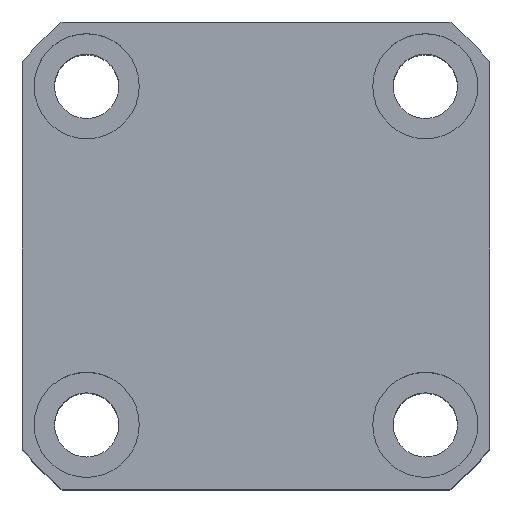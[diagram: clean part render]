
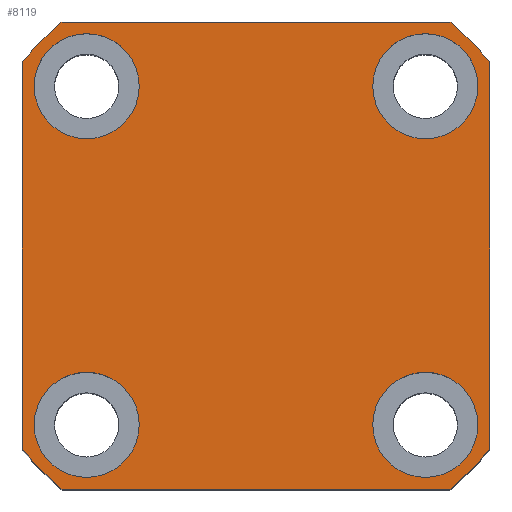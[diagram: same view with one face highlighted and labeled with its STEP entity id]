
A CAD part, top view. The second image highlights one B-rep face of the part: STEP entity #8119.
In plain terms, the highlighted planar face has unit normal (0, 0, 1).
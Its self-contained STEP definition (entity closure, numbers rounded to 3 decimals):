
#23 = CIRCLE ( 'NONE', #1518, 9. ) ;
#167 = CARTESIAN_POINT ( 'NONE',  ( -20., -29., 47.5 ) ) ;
#195 = FACE_BOUND ( 'NONE', #2477, .T. ) ;
#226 = VERTEX_POINT ( 'NONE', #8045 ) ;
#231 = CARTESIAN_POINT ( 'NONE',  ( 0., 0., 47.5 ) ) ;
#266 = DIRECTION ( 'NONE',  ( 1., 0., 0. ) ) ;
#320 = LINE ( 'NONE', #4740, #3995 ) ;
#322 = VERTEX_POINT ( 'NONE', #3326 ) ;
#336 = VERTEX_POINT ( 'NONE', #781 ) ;
#411 = EDGE_CURVE ( 'NONE', #10161, #336, #3414, .T. ) ;
#510 = CARTESIAN_POINT ( 'NONE',  ( -29., 29., 47.5 ) ) ;
#532 = DIRECTION ( 'NONE',  ( 0., 0., 1. ) ) ;
#539 = DIRECTION ( 'NONE',  ( 0., 0., 1. ) ) ;
#678 = EDGE_CURVE ( 'NONE', #3118, #2013, #23, .T. ) ;
#691 = DIRECTION ( 'NONE',  ( 1., 0., 0. ) ) ;
#696 = VECTOR ( 'NONE', #5044, 1000. ) ;
#781 = CARTESIAN_POINT ( 'NONE',  ( -40., -33.226, 47.5 ) ) ;
#1138 = DIRECTION ( 'NONE',  ( 1., 0., 0. ) ) ;
#1252 = DIRECTION ( 'NONE',  ( 0., 0., 1. ) ) ;
#1396 = AXIS2_PLACEMENT_3D ( 'NONE', #6998, #4490, #5272 ) ;
#1518 = AXIS2_PLACEMENT_3D ( 'NONE', #10374, #3752, #6339 ) ;
#1556 = DIRECTION ( 'NONE',  ( 0., 0., 1. ) ) ;
#1576 = VERTEX_POINT ( 'NONE', #2282 ) ;
#1580 = DIRECTION ( 'NONE',  ( 0., -1., 0. ) ) ;
#1602 = EDGE_CURVE ( 'NONE', #2028, #9417, #7997, .T. ) ;
#1740 = LINE ( 'NONE', #4188, #696 ) ;
#1783 = EDGE_LOOP ( 'NONE', ( #6245, #3712, #6255, #7311, #5523, #10081, #3243, #4211 ) ) ;
#1818 = CARTESIAN_POINT ( 'NONE',  ( -38., -29., 47.5 ) ) ;
#2013 = VERTEX_POINT ( 'NONE', #3189 ) ;
#2028 = VERTEX_POINT ( 'NONE', #7609 ) ;
#2072 = AXIS2_PLACEMENT_3D ( 'NONE', #3058, #2140, #3916 ) ;
#2108 = CIRCLE ( 'NONE', #5126, 9. ) ;
#2140 = DIRECTION ( 'NONE',  ( 0., 0., 1. ) ) ;
#2282 = CARTESIAN_POINT ( 'NONE',  ( 40., 33.226, 47.5 ) ) ;
#2289 = VERTEX_POINT ( 'NONE', #2880 ) ;
#2409 = FACE_BOUND ( 'NONE', #9011, .T. ) ;
#2477 = EDGE_LOOP ( 'NONE', ( #7876, #7288 ) ) ;
#2552 = EDGE_CURVE ( 'NONE', #9417, #2028, #2775, .T. ) ;
#2664 = AXIS2_PLACEMENT_3D ( 'NONE', #510, #4777, #10567 ) ;
#2775 = CIRCLE ( 'NONE', #9711, 9. ) ;
#2880 = CARTESIAN_POINT ( 'NONE',  ( -38., 29., 47.5 ) ) ;
#2904 = AXIS2_PLACEMENT_3D ( 'NONE', #3701, #1252, #1138 ) ;
#2924 = AXIS2_PLACEMENT_3D ( 'NONE', #8137, #8215, #691 ) ;
#3058 = CARTESIAN_POINT ( 'NONE',  ( -29., -29., 47.5 ) ) ;
#3059 = EDGE_CURVE ( 'NONE', #7820, #9154, #7290, .T. ) ;
#3067 = CIRCLE ( 'NONE', #1396, 52. ) ;
#3118 = VERTEX_POINT ( 'NONE', #10314 ) ;
#3189 = CARTESIAN_POINT ( 'NONE',  ( 38., -29., 47.5 ) ) ;
#3243 = ORIENTED_EDGE ( 'NONE', *, *, #4835, .T. ) ;
#3281 = EDGE_CURVE ( 'NONE', #9294, #10161, #8467, .T. ) ;
#3285 = AXIS2_PLACEMENT_3D ( 'NONE', #3952, #539, #6419 ) ;
#3326 = CARTESIAN_POINT ( 'NONE',  ( 33.226, 40., 47.5 ) ) ;
#3352 = CARTESIAN_POINT ( 'NONE',  ( 20., 29., 47.5 ) ) ;
#3355 = ORIENTED_EDGE ( 'NONE', *, *, #9248, .F. ) ;
#3414 = LINE ( 'NONE', #4269, #7766 ) ;
#3477 = EDGE_CURVE ( 'NONE', #322, #9294, #320, .T. ) ;
#3577 = VECTOR ( 'NONE', #4227, 1000. ) ;
#3701 = CARTESIAN_POINT ( 'NONE',  ( 0., 0., 47.5 ) ) ;
#3712 = ORIENTED_EDGE ( 'NONE', *, *, #411, .T. ) ;
#3748 = CARTESIAN_POINT ( 'NONE',  ( -29., 29., 47.5 ) ) ;
#3752 = DIRECTION ( 'NONE',  ( 0., 0., 1. ) ) ;
#3916 = DIRECTION ( 'NONE',  ( 1., 0., 0. ) ) ;
#3952 = CARTESIAN_POINT ( 'NONE',  ( 29., -29., 47.5 ) ) ;
#3995 = VECTOR ( 'NONE', #8110, 1000. ) ;
#4000 = CIRCLE ( 'NONE', #3285, 9. ) ;
#4019 = DIRECTION ( 'NONE',  ( 1., 0., 0. ) ) ;
#4108 = DIRECTION ( 'NONE',  ( 0., 0., 1. ) ) ;
#4109 = CARTESIAN_POINT ( 'NONE',  ( -33.226, -40., 47.5 ) ) ;
#4112 = CARTESIAN_POINT ( 'NONE',  ( -33.226, -40., 47.5 ) ) ;
#4188 = CARTESIAN_POINT ( 'NONE',  ( 40., 33.226, 47.5 ) ) ;
#4211 = ORIENTED_EDGE ( 'NONE', *, *, #3477, .T. ) ;
#4227 = DIRECTION ( 'NONE',  ( 1., 0., 0. ) ) ;
#4269 = CARTESIAN_POINT ( 'NONE',  ( -40., 33.226, 47.5 ) ) ;
#4490 = DIRECTION ( 'NONE',  ( 0., 0., 1. ) ) ;
#4681 = AXIS2_PLACEMENT_3D ( 'NONE', #231, #10243, #266 ) ;
#4740 = CARTESIAN_POINT ( 'NONE',  ( -33.226, 40., 47.5 ) ) ;
#4777 = DIRECTION ( 'NONE',  ( 0., 0., 1. ) ) ;
#4835 = EDGE_CURVE ( 'NONE', #1576, #322, #7787, .T. ) ;
#4871 = CIRCLE ( 'NONE', #5444, 9. ) ;
#4876 = DIRECTION ( 'NONE',  ( 0., 0., 1. ) ) ;
#5044 = DIRECTION ( 'NONE',  ( 0., 1., 0. ) ) ;
#5126 = AXIS2_PLACEMENT_3D ( 'NONE', #9015, #1556, #9870 ) ;
#5187 = EDGE_CURVE ( 'NONE', #10205, #7820, #8583, .T. ) ;
#5266 = EDGE_CURVE ( 'NONE', #9154, #1576, #1740, .T. ) ;
#5272 = DIRECTION ( 'NONE',  ( 1., 0., 0. ) ) ;
#5444 = AXIS2_PLACEMENT_3D ( 'NONE', #3748, #532, #6411 ) ;
#5515 = AXIS2_PLACEMENT_3D ( 'NONE', #8210, #4876, #4019 ) ;
#5523 = ORIENTED_EDGE ( 'NONE', *, *, #3059, .T. ) ;
#5663 = ORIENTED_EDGE ( 'NONE', *, *, #678, .F. ) ;
#5820 = AXIS2_PLACEMENT_3D ( 'NONE', #9662, #9622, #6393 ) ;
#5946 = VERTEX_POINT ( 'NONE', #167 ) ;
#6222 = CIRCLE ( 'NONE', #2664, 9. ) ;
#6245 = ORIENTED_EDGE ( 'NONE', *, *, #3281, .T. ) ;
#6255 = ORIENTED_EDGE ( 'NONE', *, *, #7317, .T. ) ;
#6257 = ORIENTED_EDGE ( 'NONE', *, *, #6376, .F. ) ;
#6339 = DIRECTION ( 'NONE',  ( 1., 0., 0. ) ) ;
#6376 = EDGE_CURVE ( 'NONE', #9600, #5946, #7261, .T. ) ;
#6393 = DIRECTION ( 'NONE',  ( 1., 0., 0. ) ) ;
#6407 = ORIENTED_EDGE ( 'NONE', *, *, #8078, .F. ) ;
#6411 = DIRECTION ( 'NONE',  ( 1., 0., 0. ) ) ;
#6419 = DIRECTION ( 'NONE',  ( 1., 0., 0. ) ) ;
#6534 = PLANE ( 'NONE',  #2924 ) ;
#6599 = EDGE_CURVE ( 'NONE', #5946, #9600, #2108, .T. ) ;
#6712 = EDGE_LOOP ( 'NONE', ( #8981, #6257 ) ) ;
#6901 = FACE_BOUND ( 'NONE', #6712, .T. ) ;
#6998 = CARTESIAN_POINT ( 'NONE',  ( 0., 0., 47.5 ) ) ;
#7261 = CIRCLE ( 'NONE', #2072, 9. ) ;
#7288 = ORIENTED_EDGE ( 'NONE', *, *, #2552, .F. ) ;
#7290 = CIRCLE ( 'NONE', #4681, 52. ) ;
#7311 = ORIENTED_EDGE ( 'NONE', *, *, #5187, .T. ) ;
#7317 = EDGE_CURVE ( 'NONE', #336, #10205, #3067, .T. ) ;
#7609 = CARTESIAN_POINT ( 'NONE',  ( 38., 29., 47.5 ) ) ;
#7744 = CARTESIAN_POINT ( 'NONE',  ( 33.226, -40., 47.5 ) ) ;
#7766 = VECTOR ( 'NONE', #1580, 1000. ) ;
#7787 = CIRCLE ( 'NONE', #2904, 52. ) ;
#7820 = VERTEX_POINT ( 'NONE', #7744 ) ;
#7876 = ORIENTED_EDGE ( 'NONE', *, *, #1602, .F. ) ;
#7997 = CIRCLE ( 'NONE', #5515, 9. ) ;
#8045 = CARTESIAN_POINT ( 'NONE',  ( -20., 29., 47.5 ) ) ;
#8078 = EDGE_CURVE ( 'NONE', #2013, #3118, #4000, .T. ) ;
#8110 = DIRECTION ( 'NONE',  ( -1., 0., 0. ) ) ;
#8119 = ADVANCED_FACE ( 'NONE', ( #8729, #6901, #2409, #195, #10519 ), #6534, .T. ) ;
#8137 = CARTESIAN_POINT ( 'NONE',  ( 0., 0., 47.5 ) ) ;
#8210 = CARTESIAN_POINT ( 'NONE',  ( 29., 29., 47.5 ) ) ;
#8215 = DIRECTION ( 'NONE',  ( 0., 0., 1. ) ) ;
#8467 = CIRCLE ( 'NONE', #5820, 52. ) ;
#8583 = LINE ( 'NONE', #4112, #3577 ) ;
#8729 = FACE_BOUND ( 'NONE', #10841, .T. ) ;
#8946 = CARTESIAN_POINT ( 'NONE',  ( -33.226, 40., 47.5 ) ) ;
#8981 = ORIENTED_EDGE ( 'NONE', *, *, #6599, .F. ) ;
#9011 = EDGE_LOOP ( 'NONE', ( #3355, #9262 ) ) ;
#9015 = CARTESIAN_POINT ( 'NONE',  ( -29., -29., 47.5 ) ) ;
#9154 = VERTEX_POINT ( 'NONE', #10811 ) ;
#9248 = EDGE_CURVE ( 'NONE', #226, #2289, #6222, .T. ) ;
#9262 = ORIENTED_EDGE ( 'NONE', *, *, #9861, .F. ) ;
#9294 = VERTEX_POINT ( 'NONE', #8946 ) ;
#9387 = CARTESIAN_POINT ( 'NONE',  ( -40., 33.226, 47.5 ) ) ;
#9417 = VERTEX_POINT ( 'NONE', #3352 ) ;
#9600 = VERTEX_POINT ( 'NONE', #1818 ) ;
#9622 = DIRECTION ( 'NONE',  ( 0., 0., 1. ) ) ;
#9662 = CARTESIAN_POINT ( 'NONE',  ( 0., 0., 47.5 ) ) ;
#9711 = AXIS2_PLACEMENT_3D ( 'NONE', #10837, #4108, #9907 ) ;
#9861 = EDGE_CURVE ( 'NONE', #2289, #226, #4871, .T. ) ;
#9870 = DIRECTION ( 'NONE',  ( 1., 0., 0. ) ) ;
#9907 = DIRECTION ( 'NONE',  ( 1., 0., 0. ) ) ;
#10081 = ORIENTED_EDGE ( 'NONE', *, *, #5266, .T. ) ;
#10161 = VERTEX_POINT ( 'NONE', #9387 ) ;
#10205 = VERTEX_POINT ( 'NONE', #4109 ) ;
#10243 = DIRECTION ( 'NONE',  ( 0., 0., 1. ) ) ;
#10314 = CARTESIAN_POINT ( 'NONE',  ( 20., -29., 47.5 ) ) ;
#10374 = CARTESIAN_POINT ( 'NONE',  ( 29., -29., 47.5 ) ) ;
#10519 = FACE_OUTER_BOUND ( 'NONE', #1783, .T. ) ;
#10567 = DIRECTION ( 'NONE',  ( 1., 0., 0. ) ) ;
#10811 = CARTESIAN_POINT ( 'NONE',  ( 40., -33.226, 47.5 ) ) ;
#10837 = CARTESIAN_POINT ( 'NONE',  ( 29., 29., 47.5 ) ) ;
#10841 = EDGE_LOOP ( 'NONE', ( #6407, #5663 ) ) ;
